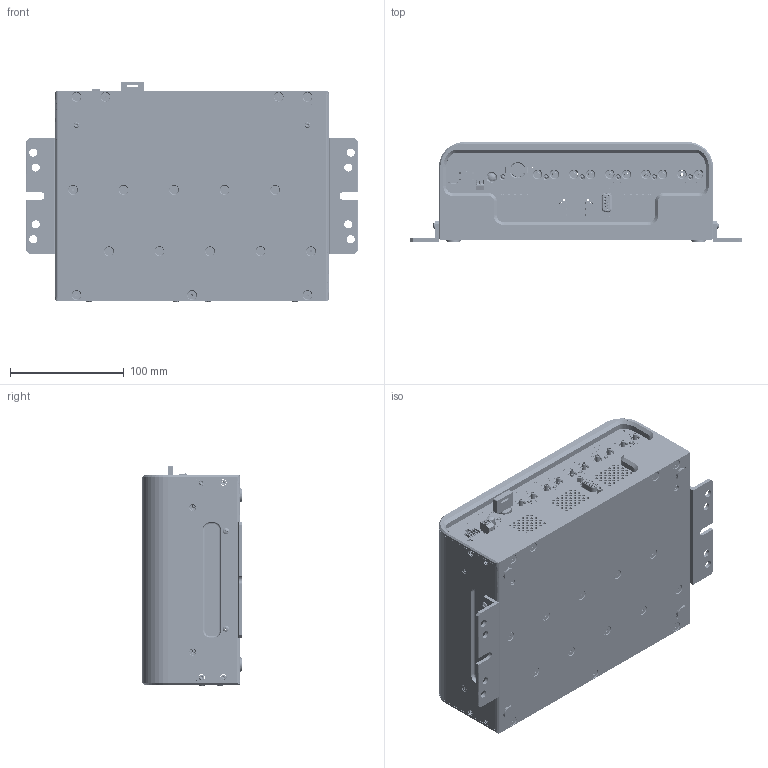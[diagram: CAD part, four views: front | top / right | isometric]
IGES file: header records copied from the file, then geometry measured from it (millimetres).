
Start section: SolidWorks IGES file using analytic representation for surfaces
Global section: file name: N:\POR\Eng\SolidWorksVault\FILES_DEVIN_WESTON\OBIS 5 Laser Engine\Marketing drawings and exported files\OBIS 5 Laser Engine.IGS; native system: SolidWorks 2012; preprocessor: SolidWorks 2012; author: lewisd; date: 130605.121445; units: inch
Bounding box: 292.1 x 88.23 x 194.44 mm (x, y, z)
Surface area: 302589.9 mm2 (no closed solid volume)
Topology: 0 solids, 0 shells, 3861 faces, 67231 edges, 67211 vertices
Faces by surface type: revolution 2504, bspline 1357
